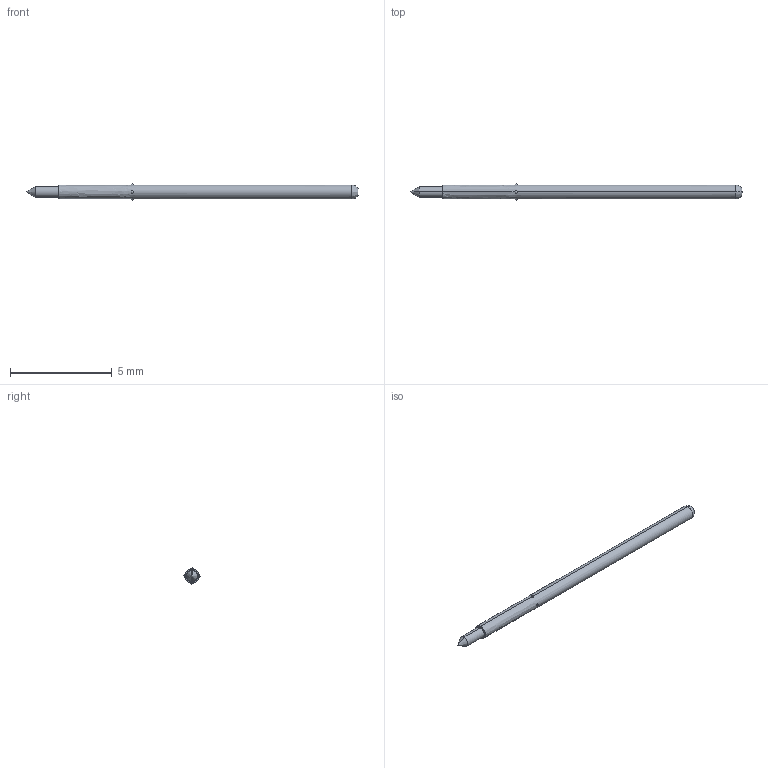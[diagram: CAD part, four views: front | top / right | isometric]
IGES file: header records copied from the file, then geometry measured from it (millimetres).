
Start section: SolidWorks IGES file using analytic representation for surfaces
Global section: file name: O:\PYLON\IGES FILES\P2662A\P2662A-1C1S REC'D.IGS; native system: SolidWorks 2015; preprocessor: SolidWorks 2015; author: kgolden; date: 171019.085334; units: inch
Bounding box: 16.3 x 0.79 x 0.79 mm (x, y, z)
Surface area: 36.8 mm2 (no closed solid volume)
Topology: 0 solids, 0 shells, 20 faces, 184 edges, 166 vertices
Faces by surface type: revolution 16, bspline 4
